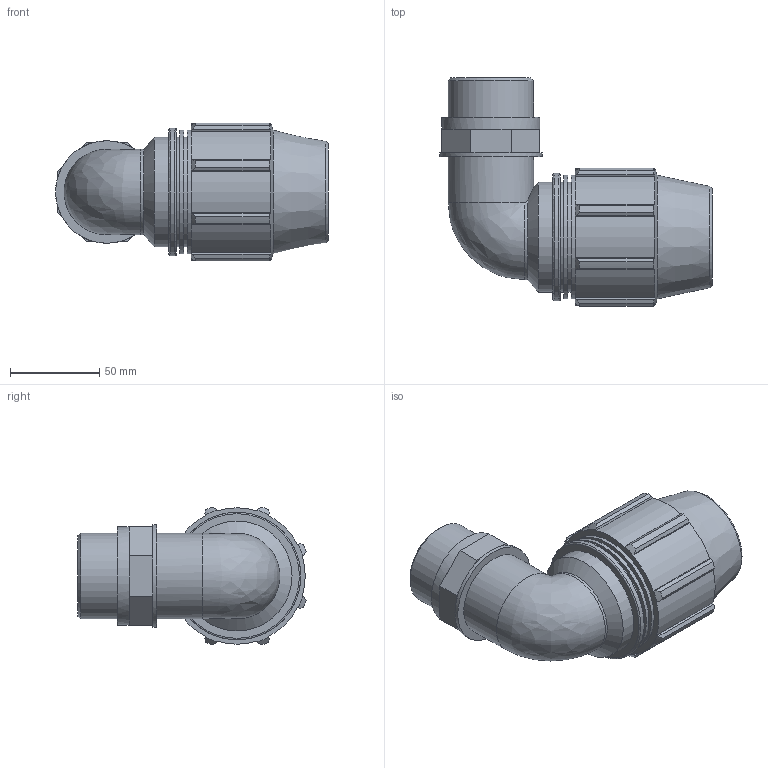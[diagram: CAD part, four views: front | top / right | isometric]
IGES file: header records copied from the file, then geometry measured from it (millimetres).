
Global section: file name: 077700040015_187700040015_0777060400150A.ipt; native system: Autodesk Inventor 2015; preprocessor: unknown; author: KIM; date: 20170622.103106; units: millimetre
Bounding box: 152.68 x 127.58 x 77.16 mm (x, y, z)
Volume: 377327.5 mm3; surface area: 73506.9 mm2
Topology: 1 solids, 1 shells, 125 faces, 320 edges, 205 vertices
Faces by surface type: plane 76, cylinder 27, cone 12, revolution 9, bspline 1
Full cylindrical faces by diameter (mm): 47.803 x2, 54.973 x1, 57.364 x1, 61.5 x3, 69.2 x2, 71.34 x1
